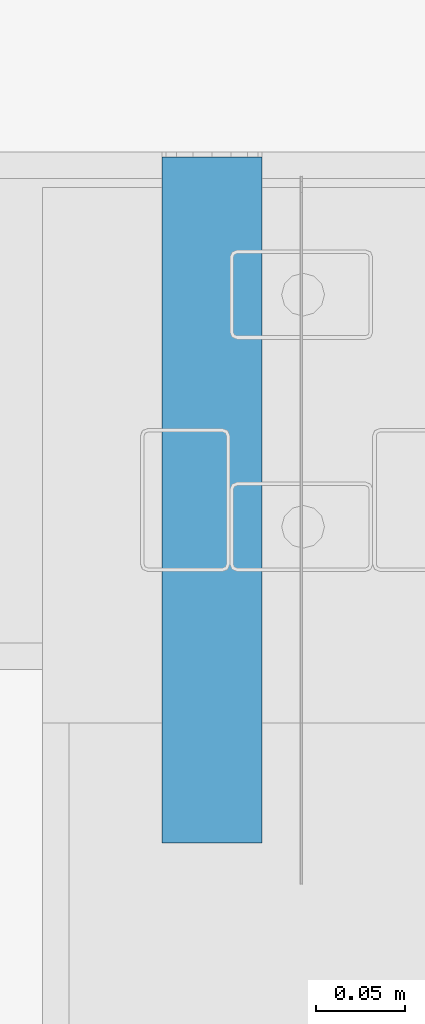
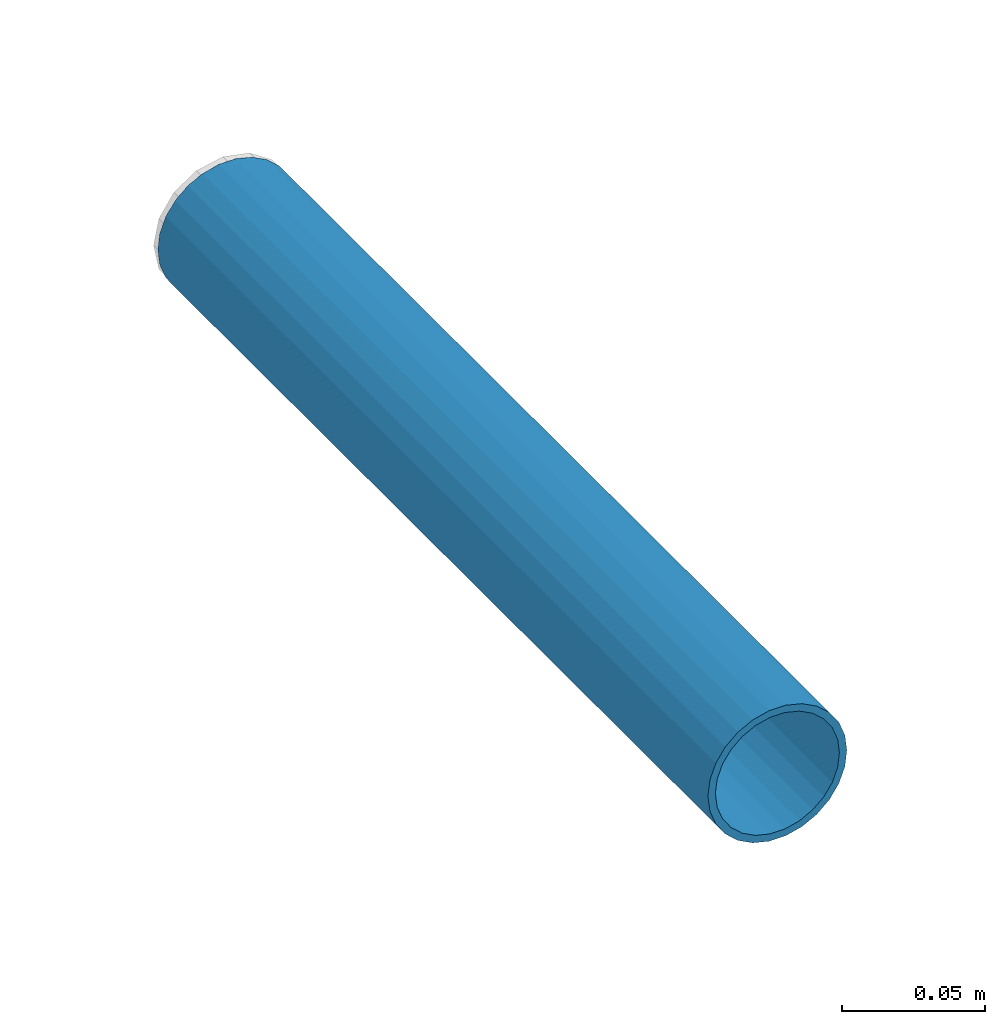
# One storey, part 54 of 186: 1 beam.
"""IFC4X3_ADD2 building model written with IfcOpenShell, lengths in millimetres."""

from ifc_helpers import new_model, si_unit, direction, frame, frame_2d, origin_with_axes, place, context, subcontext, project, spatial, hollow_circle, extrude, material, element, save


model = new_model("IFC4X3_ADD2")

# Units and contexts
model_context = context("Model", 3, precision=1e-05, world=origin_with_axes(), true_north=direction((0.0, 1.0)))
body_context = subcontext(model_context, "Body", "Model", "MODEL_VIEW")
ifc_project = project(units=[si_unit("LENGTHUNIT", "METRE", prefix="MILLI"), si_unit("AREAUNIT", "SQUARE_METRE"), si_unit("VOLUMEUNIT", "CUBIC_METRE"), si_unit("PLANEANGLEUNIT", "RADIAN"), si_unit("TIMEUNIT", "SECOND"), si_unit("MASSUNIT", "GRAM")], contexts=[model_context])

# Site, building, storey
site_placement = place(None, origin_with_axes())
site = spatial("IfcSite", under=ifc_project, at=site_placement, Name="Site", CompositionType="ELEMENT")
building_placement = place(site_placement, origin_with_axes())
building = spatial("IfcBuilding", under=site, at=building_placement, Name="IFC Building Story")
storey_placement = place(building_placement, frame((0.0, 0.0, 4370.0), z_axis=(0.0, 0.0, 1.0), x_axis=(1.0, 0.0, 0.0)))
storey = spatial("IfcBuildingStorey", under=building, at=storey_placement, Name="ETAGE 10 (1)", Elevation=4370.0)

# Beam
ifc_material = material(Name="STEEL/Accessory_PVC")
beam_placement = place(storey_placement, frame((48311.188873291, 26162.9989623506, 1330.0), z_axis=(0.0, 1.0, 0.0), x_axis=(1.0, 0.0, 0.0)))
element("IfcBeam", 1, at=beam_placement, inside=storey, material=ifc_material, Name="PS13", ObjectType="O56*3", context=body_context, shape_type="SweptSolid", body=[
    extrude(hollow_circle(Radius=28.0, WallThickness=3.0, at=frame_2d((0.0, 5.95523630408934e-12), x_axis=(1.0, 0.0))), origin_with_axes(), (0.0, 0.0, 1.0), 384.0),
])

save(model, "model.ifc")
